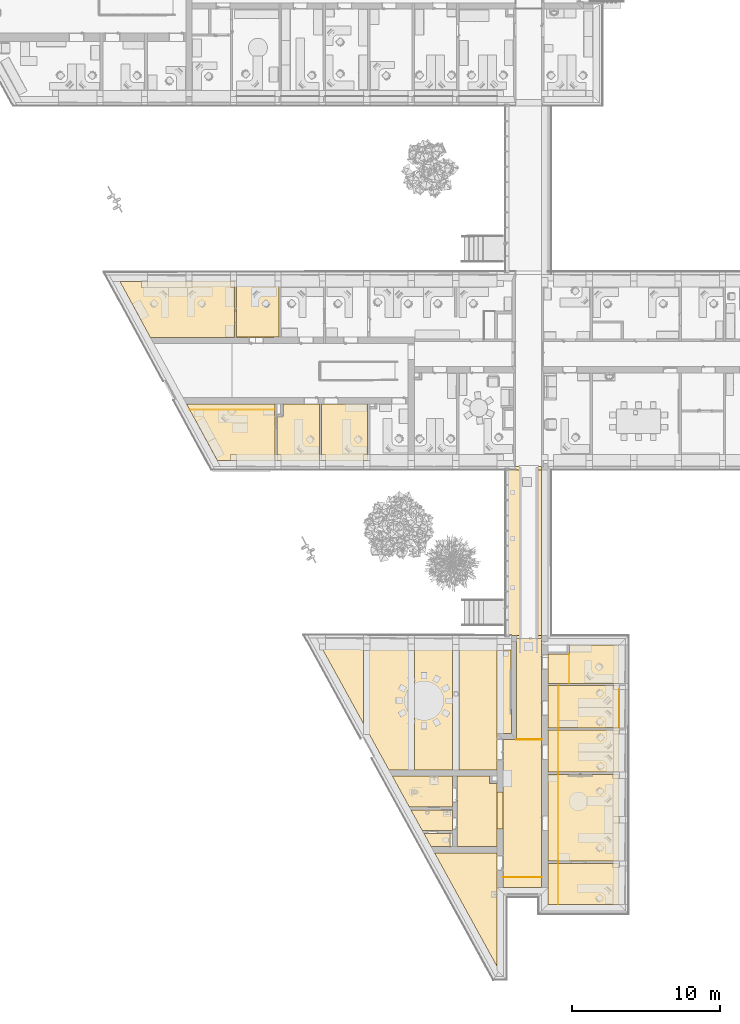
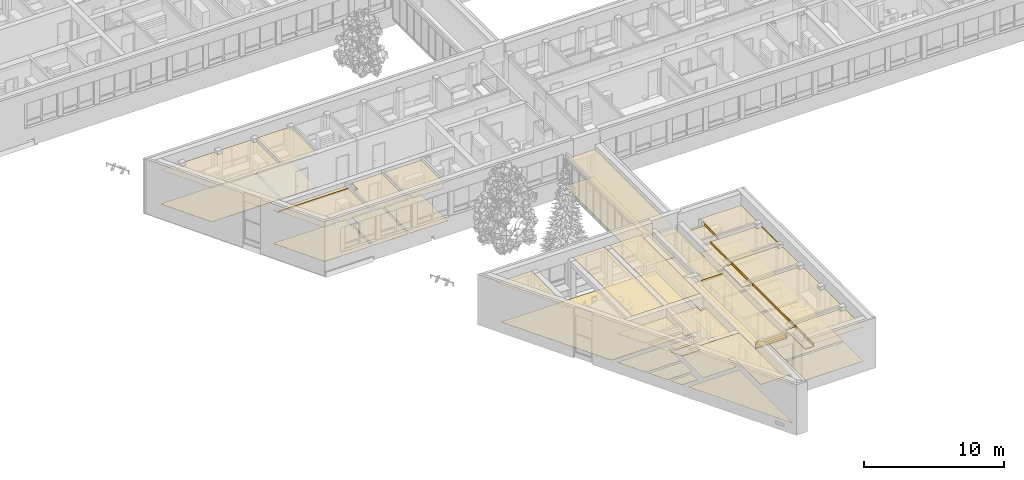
# One storey, part 105 of 194: 53 coverings.
"""IFC2X3 building model written with IfcOpenShell, lengths in millimetres."""

from ifc_helpers import new_model, entity, si_unit, converted_unit, derived_unit, money_unit, direction, frame, origin_with_axes, place, context, subcontext, project, spatial, polyline, outline, extrude, material, type_object, element, save


model = new_model("IFC2X3")

# Units and contexts
model_context = context("Model", 3, precision=1e-05, world=origin_with_axes(), true_north=direction((0.0, 1.0)))
body_context = subcontext(model_context, "Body", "Model", "MODEL_VIEW")
ifc_project = project(units=[si_unit("LENGTHUNIT", "METRE", prefix="MILLI"), si_unit("AREAUNIT", "SQUARE_METRE"), si_unit("VOLUMEUNIT", "CUBIC_METRE"), converted_unit("PLANEANGLEUNIT", "DEGREE", entity("IfcPlaneAngleMeasure", 0.0174532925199), si_unit("PLANEANGLEUNIT", "RADIAN"), dimensions=[0, 0, 0, 0, 0, 0, 0]), si_unit("SOLIDANGLEUNIT", "STERADIAN"), money_unit("EUR"), converted_unit("TIMEUNIT", "Year", entity("IfcTimeMeasure", 31556926.0), si_unit("TIMEUNIT", "SECOND"), dimensions=[0, 0, 1, 0, 0, 0, 0]), si_unit("MASSUNIT", "GRAM", prefix="KILO"), si_unit("THERMODYNAMICTEMPERATUREUNIT", "DEGREE_CELSIUS"), si_unit("LUMINOUSINTENSITYUNIT", "LUMEN"), si_unit("ENERGYUNIT", "JOULE", prefix="MEGA"), derived_unit("THERMALCONDUCTANCEUNIT", [(si_unit("POWERUNIT", "WATT"), 1), (si_unit("LENGTHUNIT", "METRE"), -1), (si_unit("THERMODYNAMICTEMPERATUREUNIT", "KELVIN"), -1)]), derived_unit("SPECIFICHEATCAPACITYUNIT", [(si_unit("ENERGYUNIT", "JOULE"), 1), (si_unit("MASSUNIT", "GRAM", prefix="KILO"), -1), (si_unit("THERMODYNAMICTEMPERATUREUNIT", "KELVIN"), -1)]), derived_unit("MASSDENSITYUNIT", [(si_unit("MASSUNIT", "GRAM", prefix="KILO"), 1), (si_unit("VOLUMEUNIT", "CUBIC_METRE"), -1)])], contexts=[model_context])

# Site, building, storey
site_placement = place(None, origin_with_axes())
site = spatial("IfcSite", under=ifc_project, at=site_placement, Name="Site", CompositionType="ELEMENT")
building_placement = place(site_placement, origin_with_axes())
building = spatial("IfcBuilding", under=site, at=building_placement, Name="Building", CompositionType="ELEMENT")
storey_placement = place(building_placement, frame((0.0, 0.0, 3000.0), z_axis=(0.0, 0.0, 1.0), x_axis=(1.0, 0.0, 0.0)))
storey = spatial("IfcBuildingStorey", under=building, at=storey_placement, Name="2 KORRUS", CompositionType="ELEMENT", Elevation=3000.0)

# Coverings
ifc_material_1 = material(Name="Värv")
covering_type_1 = type_object("IfcCoveringType", Name="L-5", PredefinedType="CLADDING")
covering_1_placement = place(storey_placement, frame((36724.8832909, 8303.52879595, 3250.0), z_axis=(0.0, 0.0, 1.0), x_axis=(1.0, 0.0, 0.0)))
element("IfcCovering", 1, at=covering_1_placement, inside=storey, type_object=covering_type_1, material=ifc_material_1, Name="Konstruktiivne lagi kaetud tolmutõkkega ja värvitud", PredefinedType="CLADDING", context=body_context, shape_type="SweptSolid", body=[
    extrude(outline(polyline([(0.0, 0.0), (-4216.58387804, 0.0), (12.0633851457, -7688.41457459), (12.0633851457, -2995.76233568), (0.0, -2995.76233568), (0.0, 0.0)])), origin_with_axes(), (0.0, 0.0, 1.0), 1.0),
])
ifc_material_2 = material(Name="Kipsplaat")
covering_type_2 = type_object("IfcCoveringType", Name="L-2", PredefinedType="CEILING")
covering_2_placement = place(storey_placement, frame((33717.5084509, 13483.9813037, 2500.0), z_axis=(0.0, 0.0, 1.0), x_axis=(1.0, 0.0, 0.0)))
element("IfcCovering", 2, at=covering_2_placement, inside=storey, type_object=covering_type_2, material=ifc_material_2, Name="Kahekordne niiskuskindlast kipsplaadist ripplag", PredefinedType="CEILING", context=body_context, shape_type="SweptSolid", body=[
    extrude(outline(polyline([(0.0, 0.0), (-4058.47092008, 0.0), (-2903.59595041, -2099.76303995), (0.0, -2099.76303995), (0.0, 0.0)])), origin_with_axes(), (0.0, 0.0, 1.0), 26.0),
])
covering_3_placement = place(storey_placement, frame((33717.5084509, 11184.2182501, 2500.0), z_axis=(0.0, 0.0, 1.0), x_axis=(1.0, 0.0, 0.0)))
element("IfcCovering", 3, at=covering_3_placement, inside=storey, type_object=covering_type_2, material=ifc_material_2, Name="Kahekordne niiskuskindlast kipsplaadist ripplag", PredefinedType="CEILING", context=body_context, shape_type="SweptSolid", body=[
    extrude(outline(polyline([(0.0, 0.0), (-2793.59546758, 0.0), (-2031.88383694, -1384.92392901), (0.0, -1388.10796046), (0.0, 0.0)])), origin_with_axes(), (0.0, 0.0, 1.0), 26.0),
])
covering_4_placement = place(storey_placement, frame((33717.5084509, 9596.11005295, 2500.0), z_axis=(0.0, 0.0, 1.0), x_axis=(1.0, 0.0, 0.0)))
element("IfcCovering", 4, at=covering_4_placement, inside=storey, type_object=covering_type_2, material=ifc_material_2, Name="Kahekordne niiskuskindlast kipsplaadist ripplag", PredefinedType="CEILING", context=body_context, shape_type="SweptSolid", body=[
    extrude(outline(polyline([(0.0, 0.0), (-1921.78829726, 3.0114855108), (-1440.21009385, -872.581257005), (0.0, -872.581257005), (0.0, 0.0)])), origin_with_axes(), (0.0, 0.0, 1.0), 26.0),
])
covering_type_3 = type_object("IfcCoveringType", Name="L-4", PredefinedType="CEILING")
covering_5_placement = place(storey_placement, frame((37144.8833089, 6657.11586329, 2700.0), z_axis=(0.0, 0.0, 1.0), x_axis=(1.0, 0.0, 0.0)))
element("IfcCovering", 5, at=covering_5_placement, inside=storey, type_object=covering_type_3, material=ifc_material_2, Name="Ripplagi", PredefinedType="CEILING", context=body_context, shape_type="SweptSolid", body=[
    extrude(outline(polyline([(0.0, 0.0), (2593.18529388, -1.54129001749), (2593.18529388, 9288.39256684), (0.0, 9288.39256684), (0.0, 0.0)])), origin_with_axes(), (0.0, 0.0, 1.0), 15.0),
])
covering_6_placement = place(storey_placement, frame((34017.508439, 13483.9813304, 2500.0), z_axis=(0.0, 0.0, 1.0), x_axis=(1.0, 0.0, 0.0)))
element("IfcCovering", 6, at=covering_6_placement, inside=storey, type_object=covering_type_3, material=ifc_material_2, Name="Ripplagi", PredefinedType="CEILING", context=body_context, shape_type="SweptSolid", body=[
    extrude(outline(polyline([(0.0, 0.0), (0.0, -4760.45253447), (2707.3748699, -4760.45253447), (2707.3748699, -500.231778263), (2208.7798767, -500.231778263), (2208.7798767, 0.0), (0.0, 0.0)])), origin_with_axes(), (0.0, 0.0, 1.0), 15.0),
])
covering_7_placement = place(storey_placement, frame((38040.0823831, 22763.5717275, 2550.0), z_axis=(0.0, 0.0, 1.0), x_axis=(1.0, 0.0, 0.0)))
element("IfcCovering", 7, at=covering_7_placement, inside=storey, type_object=covering_type_3, material=ifc_material_2, Name="Ripplagi", PredefinedType="CEILING", context=body_context, shape_type="SweptSolid", body=[
    extrude(outline(polyline([(0.0, 0.0), (-2.01385886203, -6818.06334353), (1697.98618655, -6818.06334353), (1697.98618655, 0.0), (0.0, 0.0)])), origin_with_axes(), (0.0, 0.0, 1.0), 15.0),
])
ifc_material_3 = material(Name="Betoon - Ol.Olev konstruktsioon")
covering_type_4 = type_object("IfcCoveringType", Name="P-5", PredefinedType="NOTDEFINED")
covering_8_placement = place(storey_placement, frame((33717.5084509, 13483.9813037, 0.0), z_axis=(0.0, 0.0, 1.0), x_axis=(1.0, 0.0, 0.0)))
element("IfcCovering", 8, at=covering_8_placement, inside=storey, type_object=covering_type_4, material=ifc_material_3, Name="Betoon - Ol.Olev konstruktsioon", PredefinedType="NOTDEFINED", context=body_context, shape_type="SweptSolid", body=[
    extrude(outline(polyline([(0.0, 0.0), (-4058.47092008, 0.0), (-2903.59595041, -2099.76303995), (-1599.86206002, -2099.76303995), (-1599.86206002, -2094.76306677), (-899.862065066, -2094.76306677), (-899.862065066, -2099.76303995), (0.0, -2099.76303995), (0.0, 0.0)])), frame((0.0, 0.0, -20.0), z_axis=(0.0, 0.0, 1.0), x_axis=(1.0, 0.0, 0.0)), (0.0, 0.0, 1.0), 20.0),
])
covering_9_placement = place(storey_placement, frame((33717.5084509, 11184.2182501, 0.0), z_axis=(0.0, 0.0, 1.0), x_axis=(1.0, 0.0, 0.0)))
element("IfcCovering", 9, at=covering_9_placement, inside=storey, type_object=covering_type_4, material=ifc_material_3, Name="Betoon - Ol.Olev konstruktsioon", PredefinedType="NOTDEFINED", context=body_context, shape_type="SweptSolid", body=[
    extrude(outline(polyline([(0.0, 0.0), (-2793.59546758, 0.0), (-2031.88383694, -1384.923929), (0.0, -1388.10796046), (0.0, 0.0)])), frame((0.0, 0.0, -20.0), z_axis=(0.0, 0.0, 1.0), x_axis=(1.0, 0.0, 0.0)), (0.0, 0.0, 1.0), 20.0),
])
covering_10_placement = place(storey_placement, frame((31795.7201536, 9599.12154898, 0.0), z_axis=(0.0, 0.0, 1.0), x_axis=(1.0, 0.0, 0.0)))
element("IfcCovering", 10, at=covering_10_placement, inside=storey, type_object=covering_type_4, material=ifc_material_3, Name="Betoon - Ol.Olev konstruktsioon", PredefinedType="NOTDEFINED", context=body_context, shape_type="SweptSolid", body=[
    extrude(outline(polyline([(0.0, 0.0), (481.578190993, -875.592753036), (1758.78830618, -875.592753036), (1758.78830618, -3.01148674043), (0.0, 0.0)])), frame((0.0, 0.0, -20.0), z_axis=(0.0, 0.0, 1.0), x_axis=(1.0, 0.0, 0.0)), (0.0, 0.0, 1.0), 20.0),
])
covering_type_5 = type_object("IfcCoveringType", Name="L-3", PredefinedType="CEILING")
covering_11_placement = place(storey_placement, frame((31154.6486879, 13903.9813304, 3250.0), z_axis=(0.0, 0.0, 1.0), x_axis=(1.0, 0.0, 0.0)))
element("IfcCovering", 11, at=covering_11_placement, inside=storey, type_object=covering_type_5, material=ifc_material_1, Name="Konstruktiivne lagi lauspahtel, värvitud", PredefinedType="CEILING", context=body_context, shape_type="SweptSolid", body=[
    extrude(outline(polyline([(0.0, 0.0), (2579.71018416, 0.0), (2579.71018416, 8446.69765166), (0.0, 8446.69765166), (0.0, 0.0)])), origin_with_axes(), (0.0, 0.0, 1.0), 1.0),
])
covering_12_placement = place(storey_placement, frame((34154.3588721, 13903.9813304, 3250.0), z_axis=(0.0, 0.0, 1.0), x_axis=(1.0, 0.0, 0.0)))
element("IfcCovering", 12, at=covering_12_placement, inside=storey, type_object=covering_type_5, material=ifc_material_1, Name="Konstruktiivne lagi lauspahtel, värvitud", PredefinedType="CEILING", context=body_context, shape_type="SweptSolid", body=[
    extrude(outline(polyline([(0.0, 0.0), (2570.52443682, 0.0), (2570.52443682, 8446.69765166), (0.0, 8446.69765166), (0.0, 0.0)])), origin_with_axes(), (0.0, 0.0, 1.0), 1.0),
])
covering_13_placement = place(storey_placement, frame((27734.5377905, 22367.8728972, 3250.0), z_axis=(0.0, 0.0, 1.0), x_axis=(1.0, 0.0, 0.0)))
element("IfcCovering", 13, at=covering_13_placement, inside=storey, type_object=covering_type_5, material=ifc_material_1, Name="Konstruktiivne lagi lauspahtel, värvitud", PredefinedType="CEILING", context=body_context, shape_type="SweptSolid", body=[
    extrude(outline(polyline([(0.0, 0.0), (-2966.1799639, 8.21281594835), (-0.00321853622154, -5384.81126492), (0.0, 0.0)])), origin_with_axes(), (0.0, 0.0, 1.0), 1.0),
])
covering_type_6 = type_object("IfcCoveringType", Name="P-2", PredefinedType="NOTDEFINED")
covering_14_placement = place(storey_placement, frame((44960.4684772, 7590.14585379, 0.0), z_axis=(0.0, 0.0, 1.0), x_axis=(1.0, 0.0, 0.0)))
element("IfcCovering", 14, at=covering_14_placement, inside=storey, type_object=covering_type_6, material=ifc_material_3, Name="Betoon - Ol.Olev konstruktsioon", PredefinedType="NOTDEFINED", context=body_context, shape_type="SweptSolid", body=[
    extrude(outline(polyline([(0.0, 0.0), (-4802.39994979, 0.0), (-4802.39994979, -1634.82106191), (-4796.42857999, -1634.82456841), (-4796.42857999, -2767.36758537), (-1.53885643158, -2769.94672993), (0.0, 0.0)])), frame((0.0, 0.0, -20.0), z_axis=(0.0, 0.0, 1.0), x_axis=(1.0, 0.0, 0.0)), (0.0, 0.0, 1.0), 20.0),
])
covering_15_placement = place(storey_placement, frame((44963.8017786, 13590.1449345, 0.0), z_axis=(0.0, 0.0, 1.0), x_axis=(1.0, 0.0, 0.0)))
element("IfcCovering", 15, at=covering_15_placement, inside=storey, type_object=covering_type_6, material=ifc_material_3, Name="Betoon - Ol.Olev konstruktsioon", PredefinedType="NOTDEFINED", context=body_context, shape_type="SweptSolid", body=[
    extrude(outline(polyline([(0.0, 0.0), (-4805.73325117, 0.0), (-4805.73325117, -5849.9990741), (-3.249941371, -5849.9990741), (0.0, 0.0)])), frame((0.0, 0.0, -20.0), z_axis=(0.0, 0.0, 1.0), x_axis=(1.0, 0.0, 0.0)), (0.0, 0.0, 1.0), 20.0),
])
covering_16_placement = place(storey_placement, frame((44965.4683937, 16590.1444585, 0.0), z_axis=(0.0, 0.0, 1.0), x_axis=(1.0, 0.0, 0.0)))
element("IfcCovering", 16, at=covering_16_placement, inside=storey, type_object=covering_type_6, material=ifc_material_3, Name="Betoon - Ol.Olev konstruktsioon", PredefinedType="NOTDEFINED", context=body_context, shape_type="SweptSolid", body=[
    extrude(outline(polyline([(0.0, 0.0), (-4807.39986625, 0.0), (-4807.39986625, -2849.99952395), (-1.58329685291, -2849.99952395), (0.0, 0.0)])), frame((0.0, 0.0, -20.0), z_axis=(0.0, 0.0, 1.0), x_axis=(1.0, 0.0, 0.0)), (0.0, 0.0, 1.0), 20.0),
])
covering_17_placement = place(storey_placement, frame((44967.1350333, 19590.145486, 0.0), z_axis=(0.0, 0.0, 1.0), x_axis=(1.0, 0.0, 0.0)))
element("IfcCovering", 17, at=covering_17_placement, inside=storey, type_object=covering_type_6, material=ifc_material_3, Name="Betoon - Ol.Olev konstruktsioon", PredefinedType="NOTDEFINED", context=body_context, shape_type="SweptSolid", body=[
    extrude(outline(polyline([(0.0, 0.0), (-4809.06650589, 0.0), (-4809.06650589, -2850.00101441), (-1.58327246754, -2850.00101441), (0.0, 0.0)])), frame((0.0, 0.0, -20.0), z_axis=(0.0, 0.0, 1.0), x_axis=(1.0, 0.0, 0.0)), (0.0, 0.0, 1.0), 20.0),
])
covering_18_placement = place(storey_placement, frame((44968.65168, 22320.1546721, 0.0), z_axis=(0.0, 0.0, 1.0), x_axis=(1.0, 0.0, 0.0)))
element("IfcCovering", 18, at=covering_18_placement, inside=storey, type_object=covering_type_6, material=ifc_material_3, Name="Betoon - Ol.Olev konstruktsioon", PredefinedType="NOTDEFINED", context=body_context, shape_type="SweptSolid", body=[
    extrude(outline(polyline([(0.0, 0.0), (-3355.32021624, 1.27750336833), (-3355.65864333, -606.970727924), (-4810.58315255, -606.970727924), (-4810.58315255, -2580.00918826), (-1.43330845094, -2580.00918826), (0.0, 0.0)])), frame((0.0, 0.0, -20.0), z_axis=(0.0, 0.0, 1.0), x_axis=(1.0, 0.0, 0.0)), (0.0, 0.0, 1.0), 20.0),
])
covering_19_placement = place(storey_placement, frame((28002.4384694, 38594.3351234, 0.0), z_axis=(0.0, 0.0, 1.0), x_axis=(1.0, 0.0, 0.0)))
element("IfcCovering", 19, at=covering_19_placement, inside=storey, type_object=covering_type_6, material=ifc_material_3, Name="Betoon - Ol.Olev konstruktsioon", PredefinedType="NOTDEFINED", context=body_context, shape_type="SweptSolid", body=[
    extrude(outline(polyline([(0.0, 0.0), (-3117.26415169, 0.0), (-3117.26415169, -3814.12525276), (3.05737926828, -3813.85926519), (0.0, 0.0)])), frame((0.0, 0.0, -20.0), z_axis=(0.0, 0.0, 1.0), x_axis=(1.0, 0.0, 0.0)), (0.0, 0.0, 1.0), 20.0),
])
covering_20_placement = place(storey_placement, frame((21883.1661499, 37700.403587, 0.0), z_axis=(0.0, 0.0, 1.0), x_axis=(1.0, 0.0, 0.0)))
element("IfcCovering", 20, at=covering_20_placement, inside=storey, type_object=covering_type_6, material=ifc_material_3, Name="Betoon - Ol.Olev konstruktsioon", PredefinedType="NOTDEFINED", context=body_context, shape_type="SweptSolid", body=[
    extrude(outline(polyline([(0.0, 0.0), (2.32845662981, -2920.44942062), (2852.0081649, -2920.20649176), (2852.0081649, 893.931536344), (395.178183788, 893.931536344), (395.178183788, 0.0), (0.0, 0.0)])), frame((0.0, 0.0, -20.0), z_axis=(0.0, 0.0, 1.0), x_axis=(1.0, 0.0, 0.0)), (0.0, 0.0, 1.0), 20.0),
])
covering_21_placement = place(storey_placement, frame((17846.2120715, 34779.6098425, 0.0), z_axis=(0.0, 0.0, 1.0), x_axis=(1.0, 0.0, 0.0)))
element("IfcCovering", 21, at=covering_21_placement, inside=storey, type_object=covering_type_6, material=ifc_material_3, Name="Betoon - Ol.Olev konstruktsioon", PredefinedType="NOTDEFINED", context=body_context, shape_type="SweptSolid", body=[
    extrude(outline(polyline([(0.0, 0.0), (3886.24132953, 0.0), (3886.24132953, 3814.72528089), (-2073.55522094, 3814.72528089), (0.0, 0.0)])), frame((0.0, 0.0, -20.0), z_axis=(0.0, 0.0, 1.0), x_axis=(1.0, 0.0, 0.0)), (0.0, 0.0, 1.0), 20.0),
])
covering_22_placement = place(storey_placement, frame((19154.2829511, 43382.3379492, 0.0), z_axis=(0.0, 0.0, 1.0), x_axis=(1.0, 0.0, 0.0)))
element("IfcCovering", 22, at=covering_22_placement, inside=storey, type_object=covering_type_6, material=ifc_material_3, Name="Betoon - Ol.Olev konstruktsioon", PredefinedType="NOTDEFINED", context=body_context, shape_type="SweptSolid", body=[
    extrude(outline(polyline([(-0.00440566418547, -301.364032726), (2850.07815218, -299.091688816), (2850.07815218, 3483.32715956), (0.0508559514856, 3478.75401423), (-0.00440566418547, -301.364032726)])), frame((0.0, 0.0, -20.0), z_axis=(0.0, 0.0, 1.0), x_axis=(1.0, 0.0, 0.0)), (0.0, 0.0, 1.0), 20.0),
])
covering_23_placement = place(storey_placement, frame((13336.3935943, 43076.3353811, 0.0), z_axis=(0.0, 0.0, 1.0), x_axis=(1.0, 0.0, 0.0)))
element("IfcCovering", 23, at=covering_23_placement, inside=storey, type_object=covering_type_6, material=ifc_material_3, Name="Betoon - Ol.Olev konstruktsioon", PredefinedType="NOTDEFINED", context=body_context, shape_type="SweptSolid", body=[
    extrude(outline(polyline([(0.0, 0.0), (5667.88494942, 4.51894201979), (5667.88494942, 3795.99051191), (-2050.4024131, 3772.13099621), (0.0, 0.0)])), frame((0.0, 0.0, -20.0), z_axis=(0.0, 0.0, 1.0), x_axis=(1.0, 0.0, 0.0)), (0.0, 0.0, 1.0), 20.0),
])
covering_type_7 = type_object("IfcCoveringType", Name="L-1", PredefinedType="CEILING")
covering_24_placement = place(storey_placement, frame((40872.3158384, 5954.99260322, 2950.0), z_axis=(0.0, 0.0, 1.0), x_axis=(1.0, 0.0, 0.0)))
element("IfcCovering", 24, at=covering_24_placement, inside=storey, type_object=covering_type_7, material=ifc_material_2, Name="Ripplagi. Akustine kipsplaat", PredefinedType="CEILING", context=body_context, shape_type="SweptSolid", body=[
    extrude(outline(polyline([(-0.356633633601, -1132.2607348), (4086.61375609, -1134.79347936), (4088.00264122, 1365.15328065), (3688.00262576, 1365.15328065), (3688.00262576, 1635.15326977), (0.0, 1635.15326977), (-0.356633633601, -1132.2607348)])), origin_with_axes(), (0.0, 0.0, 1.0), 20.0),
])
covering_25_placement = place(storey_placement, frame((18734.3805366, 46860.4181011, 2950.0), z_axis=(0.0, 0.0, 1.0), x_axis=(1.0, 0.0, 0.0)))
element("IfcCovering", 25, at=covering_25_placement, inside=storey, type_object=covering_type_7, material=ifc_material_2, Name="Ripplagi. Akustine kipsplaat", PredefinedType="CEILING", context=body_context, shape_type="SweptSolid", body=[
    extrude(outline(polyline([(0.0, 0.0), (-2580.05627036, -4.13982137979), (-2580.05126555, -408.092208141), (-3000.05126555, -408.092208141), (-3000.27861512, -7.49624717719), (-5580.27680921, -8.95414435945), (-5580.05126555, -408.092208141), (-6000.05126555, -408.092208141), (-6000.05127556, -9.62767627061), (-7448.38935545, -11.9517349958), (-5397.98694012, -3784.08272006), (269.898007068, -3779.56377804), (269.947641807, -388.092189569), (-0.051199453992, -388.092208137), (0.0, 0.0)])), origin_with_axes(), (0.0, 0.0, 1.0), 20.0),
])
covering_26_placement = place(storey_placement, frame((19154.2829511, 43382.3379492, 2950.0), z_axis=(0.0, 0.0, 1.0), x_axis=(1.0, 0.0, 0.0)))
element("IfcCovering", 26, at=covering_26_placement, inside=storey, type_object=covering_type_7, material=ifc_material_2, Name="Ripplagi. Akustine kipsplaat", PredefinedType="CEILING", context=body_context, shape_type="SweptSolid", body=[
    extrude(outline(polyline([(-0.00440566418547, -299.091688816), (2850.07815218, -299.091688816), (2850.07815218, 3483.32715956), (0.0508559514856, 3478.75401422), (-0.00440566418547, -299.091688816)])), origin_with_axes(), (0.0, 0.0, 1.0), 20.0),
])
covering_27_placement = place(storey_placement, frame((19093.370612, 38181.2886775, 2950.0), z_axis=(0.0, 0.0, 1.0), x_axis=(1.0, 0.0, 0.0)))
element("IfcCovering", 27, at=covering_27_placement, inside=storey, type_object=covering_type_7, material=ifc_material_2, Name="Ripplagi. Akustine kipsplaat", PredefinedType="CEILING", context=body_context, shape_type="SweptSolid", body=[
    extrude(outline(polyline([(-3096.1957213, 0.0), (-1247.15849303, -3401.67883507), (-358.19624656, -3401.60299339), (-358.230533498, -2999.66439394), (61.8037032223, -2999.66439394), (61.8037032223, -3401.34733766), (2639.0827683, -3401.34733766), (2641.8474413, -3054.51990462), (2639.41212812, 0.0), (-3096.1957213, 0.0)])), origin_with_axes(), (0.0, 0.0, 1.0), 20.0),
])
covering_28_placement = place(storey_placement, frame((21883.1452607, 37726.6076402, 2950.0), z_axis=(0.0, 0.0, 1.0), x_axis=(1.0, 0.0, 0.0)))
element("IfcCovering", 28, at=covering_28_placement, inside=storey, type_object=covering_type_7, material=ifc_material_2, Name="Ripplagi. Akustine kipsplaat", PredefinedType="CEILING", context=body_context, shape_type="SweptSolid", body=[
    extrude(outline(polyline([(0.0, 0.0), (2.02909972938, -2544.98336995), (272.029075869, -2544.98336995), (273.939187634, -2946.63032241), (2852.02907523, -2946.41052826), (2852.02907523, 867.727483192), (395.199114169, 867.727483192), (395.199114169, 0.0), (0.0, 0.0)])), origin_with_axes(), (0.0, 0.0, 1.0), 20.0),
])
covering_29_placement = place(storey_placement, frame((28002.4384694, 38594.3351234, 2950.0), z_axis=(0.0, 0.0, 1.0), x_axis=(1.0, 0.0, 0.0)))
element("IfcCovering", 29, at=covering_29_placement, inside=storey, type_object=covering_type_7, material=ifc_material_2, Name="Ripplagi. Akustine kipsplaat", PredefinedType="CEILING", context=body_context, shape_type="SweptSolid", body=[
    extrude(outline(polyline([(0.0, 0.0), (-3117.26415169, 0.0), (-3117.26415169, -3412.710868), (-2847.26415169, -3412.71085355), (-2850.53967736, -3814.7152875), (-267.279090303, -3814.07597996), (-267.264151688, -3412.71085355), (2.73579535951, -3412.710868), (0.0, 0.0)])), origin_with_axes(), (0.0, 0.0, 1.0), 20.0),
])
covering_30_placement = place(storey_placement, frame((44563.6517404, 13590.1449345, 2950.0), z_axis=(0.0, 0.0, 1.0), x_axis=(1.0, 0.0, 0.0)))
element("IfcCovering", 30, at=covering_30_placement, inside=storey, type_object=covering_type_7, material=ifc_material_2, Name="Ripplagi. Akustine kipsplaat", PredefinedType="CEILING", context=body_context, shape_type="SweptSolid", body=[
    extrude(outline(polyline([(0.0, 0.0), (-3704.33589921, 0.0), (-3704.33589921, -5849.9990741), (396.900096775, -5849.9990741), (398.333365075, -3270.02293519), (-1.66661884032, -3269.99953705), (-1.66661884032, -2849.99953705), (398.56671941, -2849.99953705), (400.233356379, -269.999999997), (1.99806891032e-05, -269.999999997), (0.0, 0.0)])), origin_with_axes(), (0.0, 0.0, 1.0), 20.0),
])
covering_31_placement = place(storey_placement, frame((41594.0216619, 19740.1454838, 2950.0), z_axis=(0.0, 0.0, 1.0), x_axis=(1.0, 0.0, 0.0)))
element("IfcCovering", 31, at=covering_31_placement, inside=storey, type_object=covering_type_7, material=ifc_material_2, Name="Ripplagi. Akustine kipsplaat", PredefinedType="CEILING", context=body_context, shape_type="SweptSolid", body=[
    extrude(outline(polyline([(0.0, 0.0), (3373.19672889, 0.0), (3374.63001811, 2580.00921188), (19.3098187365, 2581.28671424), (18.9713955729, 1973.0384517), (0.0, 0.0)])), origin_with_axes(), (0.0, 0.0, 1.0), 20.0),
])
covering_32_placement = place(storey_placement, frame((44566.9850509, 19590.145486, 2850.0), z_axis=(0.0, 0.0, 1.0), x_axis=(1.0, 0.0, 0.0)))
element("IfcCovering", 32, at=covering_32_placement, inside=storey, type_object=covering_type_7, material=ifc_material_2, Name="Ripplagi. Akustine kipsplaat", PredefinedType="CEILING", context=body_context, shape_type="SweptSolid", body=[
    extrude(outline(polyline([(0.0, 0.0), (-3694.84147843, 0.0), (-3694.84147843, -2850.00101441), (398.566709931, -2850.00101441), (399.999909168, -270.136287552), (-1.28520696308e-05, -270.001477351), (0.0, 0.0)])), origin_with_axes(), (0.0, 0.0, 1.0), 20.0),
])
covering_33_placement = place(storey_placement, frame((44565.2895537, 16590.1444585, 2950.0), z_axis=(0.0, 0.0, 1.0), x_axis=(1.0, 0.0, 0.0)))
element("IfcCovering", 33, at=covering_33_placement, inside=storey, type_object=covering_type_7, material=ifc_material_2, Name="Ripplagi. Akustine kipsplaat", PredefinedType="CEILING", context=body_context, shape_type="SweptSolid", body=[
    extrude(outline(polyline([(0.0, 0.0), (-3705.97371249, 0.0), (-3705.97371249, -2849.99952395), (398.595543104, -2849.99952395), (400.028820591, -270.039317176), (0.0288455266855, -269.999986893), (0.0, 0.0)])), origin_with_axes(), (0.0, 0.0, 1.0), 20.0),
])
covering_type_8 = type_object("IfcCoveringType", Name="P-4", PredefinedType="NOTDEFINED")
covering_34_placement = place(storey_placement, frame((36724.8832909, 8303.52879595, 0.0), z_axis=(0.0, 0.0, 1.0), x_axis=(1.0, 0.0, 0.0)))
element("IfcCovering", 34, at=covering_34_placement, inside=storey, type_object=covering_type_8, material=ifc_material_3, Name="Betoon - Ol.Olev konstruktsioon", PredefinedType="NOTDEFINED", context=body_context, shape_type="SweptSolid", body=[
    extrude(outline(polyline([(0.0, 0.0), (-4216.58387804, 0.0), (12.0633851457, -7688.41457459), (12.0633851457, -2995.76233568), (0.0, -2995.76233568), (0.0, 0.0)])), frame((0.0, 0.0, -2.0), z_axis=(0.0, 0.0, 1.0), x_axis=(1.0, 0.0, 0.0)), (0.0, 0.0, 1.0), 2.0),
])
covering_type_9 = type_object("IfcCoveringType", Name="P-1", PredefinedType="NOTDEFINED")
covering_35_placement = place(storey_placement, frame((37401.4032636, 34351.2768004, 0.0), z_axis=(0.0, 0.0, 1.0), x_axis=(1.0, 0.0, 0.0)))
element("IfcCovering", 35, at=covering_35_placement, inside=storey, type_object=covering_type_9, material=ifc_material_3, Name="Põrandakate", PredefinedType="NOTDEFINED", context=body_context, shape_type="SweptSolid", body=[
    extrude(outline(polyline([(0.0, 0.0), (-10.2907777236, -11580.1396239), (2336.66533868, -11587.1458423), (2336.66533868, 0.0129645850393), (0.0, 0.0)])), frame((0.0, 0.0, -20.0), z_axis=(0.0, 0.0, 1.0), x_axis=(1.0, 0.0, 0.0)), (0.0, 0.0, 1.0), 20.0),
])
covering_36_placement = place(storey_placement, frame((34017.5084509, 13483.9813865, 0.0), z_axis=(0.0, 0.0, 1.0), x_axis=(1.0, 0.0, 0.0)))
element("IfcCovering", 36, at=covering_36_placement, inside=storey, type_object=covering_type_9, material=ifc_material_3, Name="Põrandakate", PredefinedType="NOTDEFINED", context=body_context, shape_type="SweptSolid", body=[
    extrude(outline(polyline([(0.0, 0.0), (0.0, -4760.45263143), (2707.37485739, -4760.45263143), (2707.37485739, -3585.41093866), (3127.37485426, -3585.41093866), (3127.37485426, -7528.40693687), (5714.62780661, -7528.40693687), (5714.62780661, 9347.86159317), (4020.56001142, 9354.47171936), (4020.56001142, 2461.52696849), (3127.37485426, 2463.01729722), (3127.37485426, -1085.41089734), (2707.37485739, -1085.41089734), (2707.37485739, -500.23196017), (2208.77989402, -500.23196017), (2208.77989402, 0.0), (0.0, 0.0)])), frame((0.0, 0.0, -20.0), z_axis=(0.0, 0.0, 1.0), x_axis=(1.0, 0.0, 0.0)), (0.0, 0.0, 1.0), 20.0),
])
covering_37_placement = place(storey_placement, frame((29428.0364778, 13903.9813304, 0.0), z_axis=(0.0, 0.0, 1.0), x_axis=(1.0, 0.0, 0.0)))
element("IfcCovering", 37, at=covering_37_placement, inside=storey, type_object=covering_type_9, material=ifc_material_3, Name="Põrandakate", PredefinedType="NOTDEFINED", context=body_context, shape_type="SweptSolid", body=[
    extrude(outline(polyline([(0.0, 0.0), (7296.84683107, 0.0), (7296.84683107, 2064.24367764), (7309.5383182, 2463.34715681), (8260.03204961, 2462.11162274), (8253.40362655, 8071.03556837), (-4439.08997297, 8071.03556837), (0.0, 0.0)])), frame((0.0, 0.0, -20.0), z_axis=(0.0, 0.0, 1.0), x_axis=(1.0, 0.0, 0.0)), (0.0, 0.0, 1.0), 20.0),
])
covering_type_10 = type_object("IfcCoveringType", Name="L-6", PredefinedType="CEILING")
covering_38_placement = place(storey_placement, frame((15997.1748907, 38181.2886775, 2850.0), z_axis=(0.0, 0.0, 1.0), x_axis=(1.0, 0.0, 0.0)))
element("IfcCovering", 38, at=covering_38_placement, inside=storey, type_object=covering_type_10, material=ifc_material_2, Name="Kahekordne kipsplaadist ripplagi", PredefinedType="CEILING", context=body_context, shape_type="SweptSolid", body=[
    extrude(outline(polyline([(0.0, 0.0), (5735.60784942, 0.0), (5735.60784942, 413.046445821), (-224.518040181, 413.046445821), (0.0, 0.0)])), origin_with_axes(), (0.0, 0.0, 1.0), 26.0),
])
covering_39_placement = place(storey_placement, frame((37442.8746909, 22969.0133978, 2500.0), z_axis=(0.0, 0.0, 1.0), x_axis=(1.0, 0.0, 0.0)))
element("IfcCovering", 39, at=covering_39_placement, inside=storey, type_object=covering_type_10, material=ifc_material_2, Name="Kahekordne kipsplaadist ripplagi", PredefinedType="CEILING", context=body_context, shape_type="SweptSolid", body=[
    extrude(outline(polyline([(0.0, 0.0), (2293.21920786, 0.0), (2293.21920786, 11162.3130536), (0.0, 11162.3130536), (0.0, 0.0)])), origin_with_axes(), (0.0, 0.0, 1.0), 26.0),
])
covering_40_placement = place(storey_placement, frame((40158.0685274, 4822.82677105, 2700.0), z_axis=(0.0, 0.0, 1.0), x_axis=(1.0, 0.0, 0.0)))
element("IfcCovering", 40, at=covering_40_placement, inside=storey, type_object=covering_type_10, material=ifc_material_2, Name="Kahekordne kipsplaadist ripplagi", PredefinedType="CEILING", context=body_context, shape_type="SweptSolid", body=[
    extrude(outline(polyline([(0.0, 0.0), (711.542318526, 0.0), (711.542318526, 2767.31908939), (0.0, 2767.31908939), (0.0, 0.0)])), origin_with_axes(), (0.0, 0.0, 1.0), 26.0),
])
covering_41_placement = place(storey_placement, frame((40158.0685274, 7740.14586044, 2700.0), z_axis=(0.0, 0.0, 1.0), x_axis=(1.0, 0.0, 0.0)))
element("IfcCovering", 41, at=covering_41_placement, inside=storey, type_object=covering_type_10, material=ifc_material_2, Name="Kahekordne kipsplaadist ripplagi", PredefinedType="CEILING", context=body_context, shape_type="SweptSolid", body=[
    extrude(outline(polyline([(0.0, 0.0), (701.24731381, 0.0), (701.24731381, 5849.9990741), (0.0, 5849.9990741), (0.0, 0.0)])), origin_with_axes(), (0.0, 0.0, 1.0), 26.0),
])
covering_42_placement = place(storey_placement, frame((40158.0685274, 16740.1933448, 2700.0), z_axis=(0.0, 0.0, 1.0), x_axis=(1.0, 0.0, 0.0)))
element("IfcCovering", 42, at=covering_42_placement, inside=storey, type_object=covering_type_10, material=ifc_material_2, Name="Kahekordne kipsplaadist ripplagi", PredefinedType="CEILING", context=body_context, shape_type="SweptSolid", body=[
    extrude(outline(polyline([(0.0, 0.0), (714.075045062, 0.0), (714.075045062, 2849.95213907), (0.0, 2849.95213907), (0.0, 0.0)])), origin_with_axes(), (0.0, 0.0, 1.0), 26.0),
])
covering_43_placement = place(storey_placement, frame((40158.0685274, 13740.1938078, 2700.0), z_axis=(0.0, 0.0, 1.0), x_axis=(1.0, 0.0, 0.0)))
element("IfcCovering", 43, at=covering_43_placement, inside=storey, type_object=covering_type_10, material=ifc_material_2, Name="Kahekordne kipsplaadist ripplagi", PredefinedType="CEILING", context=body_context, shape_type="SweptSolid", body=[
    extrude(outline(polyline([(0.0, 0.0), (701.24731381, 0.0), (701.24731381, 2849.95066383), (0.0, 2849.95066383), (0.0, 0.0)])), origin_with_axes(), (0.0, 0.0, 1.0), 26.0),
])
covering_44_placement = place(storey_placement, frame((40158.0685274, 19740.1454838, 2700.0), z_axis=(0.0, 0.0, 1.0), x_axis=(1.0, 0.0, 0.0)))
element("IfcCovering", 44, at=covering_44_placement, inside=storey, type_object=covering_type_10, material=ifc_material_2, Name="Kahekordne kipsplaadist ripplagi", PredefinedType="CEILING", context=body_context, shape_type="SweptSolid", body=[
    extrude(outline(polyline([(0.0, 0.0), (1449.13599904, 0.0), (1449.13599904, 1973.03846033), (0.0, 1973.03846033), (0.0, 0.0)])), origin_with_axes(), (0.0, 0.0, 1.0), 26.0),
])
covering_type_11 = type_object("IfcCoveringType", Name="Kips", PredefinedType="CEILING")
covering_45_placement = place(storey_placement, frame((15507.7555264, 38181.2886775, 2854.99347189), z_axis=(0.0, 0.0, 1.0), x_axis=(1.0, 0.0, 0.0)))
element("IfcCovering", 45, at=covering_45_placement, inside=storey, type_object=covering_type_11, material=ifc_material_2, Name="Kipsplaat", PredefinedType="CEILING", context=body_context, shape_type="SweptSolid", body=[
    extrude(outline(polyline([(489.419356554, 0.0), (6225.02719199, 0.0), (6225.01682723, 12.9999999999), (482.352997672, 12.9999999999), (489.419356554, 0.0)])), origin_with_axes(), (0.0, 0.0, 1.0), 115.006528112),
])
covering_46_placement = place(storey_placement, frame((37144.8736204, 6655.36913898, 2712.5), z_axis=(0.0, 0.0, 1.0), x_axis=(0.999999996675, 8.15525268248e-05, 0.0)))
element("IfcCovering", 46, at=covering_46_placement, inside=storey, type_object=covering_type_11, material=ifc_material_2, Name="Kipsplaat", PredefinedType="CEILING", context=body_context, shape_type="SweptSolid", body=[
    extrude(outline(polyline([(0.00968852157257, 0.0), (2593.18398673, 0.0), (2593.18398673, 13.0000000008), (0.0107487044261, 13.0000000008), (0.00968852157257, 0.0)])), origin_with_axes(), (0.0, 0.0, 1.0), 556.18389766),
])
covering_47_placement = place(storey_placement, frame((38038.0685697, 15945.5083839, 2550.0), z_axis=(0.0, 0.0, 1.0), x_axis=(1.0, 0.0, 0.0)))
element("IfcCovering", 47, at=covering_47_placement, inside=storey, type_object=covering_type_11, material=ifc_material_2, Name="Kipsplaat", PredefinedType="CEILING", context=body_context, shape_type="SweptSolid", body=[
    extrude(outline(polyline([(-4.22633092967e-05, 0.0), (1699.99995774, 0.0), (1699.99995774, 12.9999999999), (-4.22633092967e-05, 12.9999999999), (-4.22633092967e-05, 0.0)])), origin_with_axes(), (0.0, 0.0, 1.0), 162.5),
])
covering_48_placement = place(storey_placement, frame((40859.3158412, 16590.1444716, 2726.0), z_axis=(0.0, 0.0, 1.0), x_axis=(0.0, -1.0, 0.0)))
element("IfcCovering", 48, at=covering_48_placement, inside=storey, type_object=covering_type_11, material=ifc_material_2, Name="Kipsplaat", PredefinedType="CEILING", context=body_context, shape_type="SweptSolid", body=[
    extrude(outline(polyline([(0.0, 0.0), (2849.99953705, 0.0), (2849.99953705, 13.0), (0.0, 13.0), (0.0, 0.0)])), origin_with_axes(), (0.0, 0.0, 1.0), 224.0),
])
covering_49_placement = place(storey_placement, frame((41594.0216619, 21713.1839442, 2726.0), z_axis=(0.0, 0.0, 1.0), x_axis=(0.0, -1.0, 0.0)))
element("IfcCovering", 49, at=covering_49_placement, inside=storey, type_object=covering_type_11, material=ifc_material_2, Name="Kipsplaat", PredefinedType="CEILING", context=body_context, shape_type="SweptSolid", body=[
    extrude(outline(polyline([(0.0, 0.0), (1973.03846033, 0.0), (1973.03846033, 13.0), (0.0, 13.0), (0.0, 0.0)])), origin_with_axes(), (0.0, 0.0, 1.0), 224.0),
])
covering_50_placement = place(storey_placement, frame((40872.1435725, 19740.1454838, 2726.0), z_axis=(0.0, 0.0, 1.0), x_axis=(0.0, -1.0, 0.0)))
element("IfcCovering", 50, at=covering_50_placement, inside=storey, type_object=covering_type_11, material=ifc_material_2, Name="Kipsplaat", PredefinedType="CEILING", context=body_context, shape_type="SweptSolid", body=[
    extrude(outline(polyline([(150.0, 0.0), (2999.95213907, 0.0), (2999.95213907, 13.0), (150.0, 13.0), (150.0, 0.0)])), origin_with_axes(), (0.0, 0.0, 1.0), 224.0),
])
covering_51_placement = place(storey_placement, frame((40859.3158412, 13740.1449345, 2726.0), z_axis=(0.0, 0.0, 1.0), x_axis=(0.0, -1.0, 0.0)))
element("IfcCovering", 51, at=covering_51_placement, inside=storey, type_object=covering_type_11, material=ifc_material_2, Name="Kipsplaat", PredefinedType="CEILING", context=body_context, shape_type="SweptSolid", body=[
    extrude(outline(polyline([(150.0, 0.0), (5999.99907411, 0.0), (5999.99907411, 13.0), (150.0, 13.0), (150.0, 0.0)])), origin_with_axes(), (0.0, 0.0, 1.0), 224.0),
])
covering_52_placement = place(storey_placement, frame((40856.6108459, 7740.14586044, 2726.0), z_axis=(0.0, 0.0, 1.0), x_axis=(0.0, -1.0, 0.0)))
element("IfcCovering", 52, at=covering_52_placement, inside=storey, type_object=covering_type_11, material=ifc_material_2, Name="Kipsplaat", PredefinedType="CEILING", context=body_context, shape_type="SweptSolid", body=[
    extrude(outline(polyline([(150.0, 0.0), (2917.31908939, 0.0), (2917.31908939, 13.0), (150.0, 13.0), (150.0, 0.0)])), origin_with_axes(), (0.0, 0.0, 1.0), 224.0),
])
covering_53_placement = place(storey_placement, frame((44966.9849601, 19320.0091985, 2870.0), z_axis=(0.0, 0.0, 1.0), x_axis=(-0.000555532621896, -0.999999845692, 0.0)))
element("IfcCovering", 53, at=covering_53_placement, inside=storey, type_object=covering_type_11, material=ifc_material_2, Name="Kipsplaat", PredefinedType="CEILING", context=body_context, shape_type="SweptSolid", body=[
    extrude(outline(polyline([(0.0, 0.0), (2579.86512495, 1.13686837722e-10), (2579.85790302, 13.0000000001), (9.09494701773e-10, 13.0), (0.0, 0.0)])), origin_with_axes(), (0.0, 0.0, 1.0), 80.0),
])

save(model, "model.ifc")
